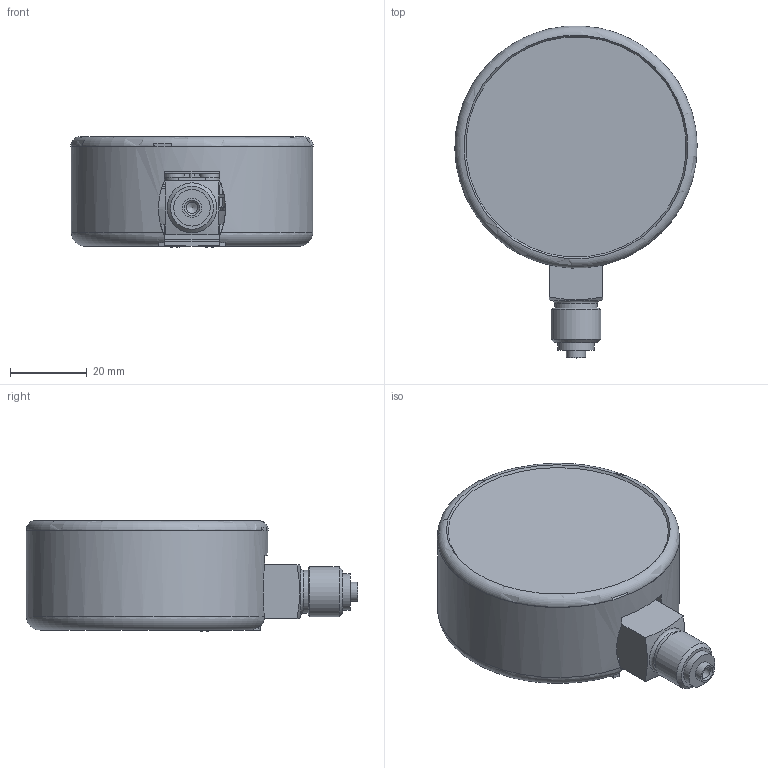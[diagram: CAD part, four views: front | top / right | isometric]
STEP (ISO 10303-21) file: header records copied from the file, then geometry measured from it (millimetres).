
FILE_DESCRIPTION(/* description */ (''),/* implementation_level */ '2;1');
FILE_NAME(/* name */ 'I:\Engineering\BGPL\Technical_Documentation\Drawings\3D_GAUGES\M1-63_ABS\M1-63_ABS_step.stp',/* time_stamp */ '2017-10-02T11:48:58+03:00',/* author */ ('aleksaim'),/* organization */ (''),/* preprocessor_version */ 'ST-DEVELOPER v16.13',/* originating_system */ 'Autodesk Inventor 2018',/* authorisation */ '');
FILE_SCHEMA (('AUTOMOTIVE_DESIGN { 1 0 10303 214 3 1 1 }'));
Length unit declared in the file: millimetre
Products named in the file (1): M1-63_ABS_step
Bounding box: 63.18 x 86.56 x 28.95 mm (x, y, z)
Volume: 30379.8 mm3; surface area: 37862.9 mm2
Topology: 2 solids, 8 shells, 1136 faces, 3056 edges, 1978 vertices
Faces by surface type: plane 563, cylinder 399, bspline 112, cone 33, torus 19, sphere 10
Full cylindrical faces by diameter (mm): 1.3 x3, 1.38 x2, 1.4 x3, 1.5 x2, 1.6 x1, 1.7 x1, 1.9 x1, 2 x9, 2.2 x2, 2.459 x2, 2.5 x3, 2.54 x1, 2.6 x2, 2.8 x2, 3 x10, 3.4 x2, 3.5 x1, 5 x4, 6.3 x1, 6.4 x2, 9.5 x1, 11.2 x1, 13 x2, 55.2 x1, 58 x1, 59.8 x1, 60.8 x2, 63 x1
Entity records: 39354 total; most frequent: CARTESIAN_POINT 9958, ORIENTED_EDGE 5850, DIRECTION 5799, EDGE_CURVE 2925, AXIS2_PLACEMENT_3D 2077, VERTEX_POINT 1952, LINE 1645, VECTOR 1645
